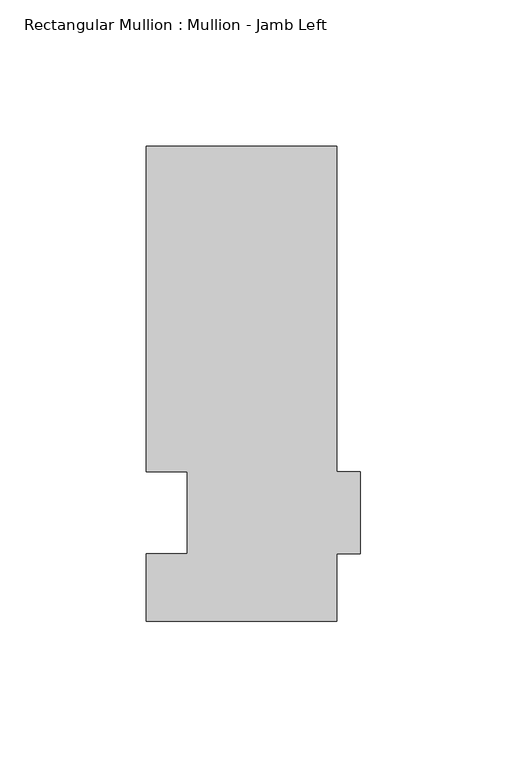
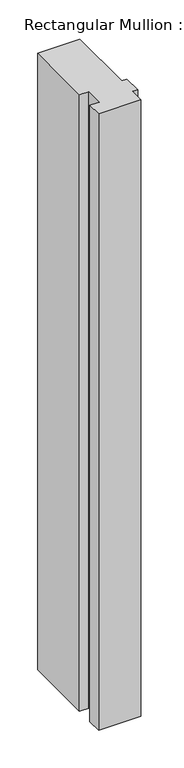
"""IFC4 building model written with IfcOpenShell, lengths in millimetres: member geometry, Rectangular Mullion : Mullion - Jamb Left."""

import ifcopenshell
import ifcopenshell.guid

model = None  # the IFC model being written
_history = None  # IfcOwnerHistory: only IFC2X3 demands one
_inside = {}  # id of a spatial element -> (the spatial element, [elements in it])
_under = {}  # id of a project, library or spatial element -> (it, [spatial elements below it])
_declared = {}  # id of a project -> (the project, [libraries it declares])
_typed = {}  # id of a type object -> (the type object, [elements of that type])
_made_of = {}  # id of a material, layer set ... -> (it, [elements and type objects made of it])


def new_model(schema):
    """Start an empty IFC model of exactly this schema.

    Asked for "IFC4X3", IfcOpenShell would pick the latest addendum, in which some entities
    have other attributes; the version numbers below select the first issue.
    IFC2X3 requires an IfcOwnerHistory on every rooted entity: one is made here for all.
    """
    global model, _history
    if schema == "IFC4X3":
        model = ifcopenshell.file(schema_version=(4, 3, 0, 0))
    else:
        model = ifcopenshell.file(schema=schema)
    _inside.clear()
    _under.clear()
    _declared.clear()
    _typed.clear()
    _made_of.clear()
    _history = None
    if model.schema == "IFC2X3":
        org = make("IfcOrganization", Name="unknown")
        user = make(
            "IfcPersonAndOrganization",
            ThePerson=make("IfcPerson", FamilyName="unknown"),
            TheOrganization=org,
        )
        app = make(
            "IfcApplication",
            ApplicationDeveloper=org,
            Version="unknown",
            ApplicationFullName="unknown",
            ApplicationIdentifier="unknown",
        )
        _history = make(
            "IfcOwnerHistory",
            OwningUser=user,
            OwningApplication=app,
            ChangeAction="ADDED",
            CreationDate=0,
        )
    return model


def make(cls, **values):
    """One entity of the class cls with the attributes given. An attribute that is None is left unset."""
    return model.create_entity(
        cls, **{name: value for name, value in values.items() if value is not None}
    )


def rooted(cls, **values):
    """An entity with a GlobalId (a new one), such as an element, a storey or a relation."""
    return make(cls, GlobalId=ifcopenshell.guid.new(), OwnerHistory=_history, **values)


def si_unit(unit_type, name, prefix=None):
    """IfcSIUnit, for example si_unit("LENGTHUNIT", "METRE", prefix="MILLI")."""
    return make("IfcSIUnit", UnitType=unit_type, Prefix=prefix, Name=name)


def assignment(units):
    """IfcUnitAssignment: the units of a project."""
    return None if units is None else make("IfcUnitAssignment", Units=units)


def point(xyz):
    """IfcCartesianPoint."""
    return None if xyz is None else make("IfcCartesianPoint", Coordinates=xyz)


def direction(xyz):
    """IfcDirection."""
    return None if xyz is None else make("IfcDirection", DirectionRatios=xyz)


def frame(location, z_axis=None, x_axis=None):
    """IfcAxis2Placement3D, a coordinate frame: its origin and axes. An axis left out is left unset."""
    return make(
        "IfcAxis2Placement3D",
        Location=point(location),
        Axis=direction(z_axis),
        RefDirection=direction(x_axis),
    )


def origin():
    """The frame at (0, 0, 0) with its axes left unset."""
    return frame((0.0, 0.0, 0.0))


def place(relative_to, where):
    """IfcLocalPlacement: puts the frame where relative to a parent placement (None: the world)."""
    return make(
        "IfcLocalPlacement", PlacementRelTo=relative_to, RelativePlacement=where
    )


def context(
    kind, dimensions, precision=None, world=None, true_north=None, identifier=None
):
    """IfcGeometricRepresentationContext, for example the 3D "Model" context."""
    return make(
        "IfcGeometricRepresentationContext",
        ContextIdentifier=identifier,
        ContextType=kind,
        CoordinateSpaceDimension=dimensions,
        Precision=precision,
        WorldCoordinateSystem=world,
        TrueNorth=true_north,
    )


def project(units=None, contexts=None):
    """IfcProject with its units and contexts."""
    return rooted(
        "IfcProject",
        Name="project",
        RepresentationContexts=contexts,
        UnitsInContext=assignment(units),
    )


def spatial(cls, under=None, at=None, **own):
    """A site, building, storey or space (cls), placed at a placement, below another one or the project."""
    s = rooted(cls, ObjectPlacement=at, **own)
    if under is not None:
        _under.setdefault(under.id(), (under, []))[1].append(s)
    return s


def polyline(points):
    """IfcPolyline through the points."""
    return make("IfcPolyline", Points=[point(p) for p in points])


def outline(outer, holes=None, kind="AREA"):
    """IfcArbitraryClosedProfileDef: a profile drawn as a closed curve; with holes, ...WithVoids."""
    if holes is None:
        return make("IfcArbitraryClosedProfileDef", ProfileType=kind, OuterCurve=outer)
    return make(
        "IfcArbitraryProfileDefWithVoids",
        ProfileType=kind,
        OuterCurve=outer,
        InnerCurves=holes,
    )


def extrude(swept, where, along, depth):
    """IfcExtrudedAreaSolid: the profile swept, set in the frame where, extruded along a direction by depth."""
    return make(
        "IfcExtrudedAreaSolid",
        SweptArea=swept,
        Position=where,
        ExtrudedDirection=direction(along),
        Depth=depth,
    )


def shape(context_of_items, identifier, shape_type, items):
    """IfcShapeRepresentation: the items that make up one representation, for example the "Body"."""
    return make(
        "IfcShapeRepresentation",
        ContextOfItems=context_of_items,
        RepresentationIdentifier=identifier,
        RepresentationType=shape_type,
        Items=items,
    )


def source(mapping_origin, context_of_items, identifier, shape_type, items):
    """IfcRepresentationMap: a shape defined once, which mapped items show again and again."""
    return make(
        "IfcRepresentationMap",
        MappingOrigin=mapping_origin,
        MappedRepresentation=shape(context_of_items, identifier, shape_type, items),
    )


def transform(
    local_origin,
    x_axis=None,
    y_axis=None,
    z_axis=None,
    scale=None,
    scale2=None,
    scale3=None,
    uniform=True,
):
    """IfcCartesianTransformationOperator3D, or its non-uniform kind. x_axis, y_axis, z_axis: its Axis1, 2, 3."""
    if uniform:
        return make(
            "IfcCartesianTransformationOperator3D",
            Axis1=direction(x_axis),
            Axis2=direction(y_axis),
            LocalOrigin=point(local_origin),
            Scale=scale,
            Axis3=direction(z_axis),
        )
    return make(
        "IfcCartesianTransformationOperator3DnonUniform",
        Axis1=direction(x_axis),
        Axis2=direction(y_axis),
        LocalOrigin=point(local_origin),
        Scale=scale,
        Axis3=direction(z_axis),
        Scale2=scale2,
        Scale3=scale3,
    )


def mapped(mapping_source, mapping_target):
    """IfcMappedItem: shows the shape of a source again, moved by a transform."""
    return make(
        "IfcMappedItem", MappingSource=mapping_source, MappingTarget=mapping_target
    )


def made_of(thing, what):
    """Note that an element or type object is made of a material, layer set ...; save() writes the relation."""
    if what is not None:
        _made_of.setdefault(what.id(), (what, []))[1].append(thing)
    return thing


def element(
    cls,
    number,
    at=None,
    inside=None,
    cuts=None,
    type_object=None,
    material=None,
    context=None,
    identifier="Body",
    shape_type=None,
    held_by="IfcProductDefinitionShape",
    body=None,
    shapes=None,
    **own,
):
    """One element of the class cls, such as IfcWall. Its Tag is "e" and its number.

    at: its placement. inside: the storey or other place that contains it. cuts: it is an
    opening in that element (IfcRelVoidsElement). A single representation is given by context,
    identifier, shape_type and body (its items); several are given by shapes. held_by: the class
    of the entity that holds the representations. save() writes the other relations.
    """
    e = rooted(cls, Tag="e%d" % number, ObjectPlacement=at, **own)
    if body is not None:
        shapes = [shape(context, identifier, shape_type, body)]
    if shapes is not None:
        e.Representation = make(held_by, Representations=shapes)
    if inside is not None:
        _inside.setdefault(inside.id(), (inside, []))[1].append(e)
    if cuts is not None:
        rooted(
            "IfcRelVoidsElement", RelatingBuildingElement=cuts, RelatedOpeningElement=e
        )
    if type_object is not None:
        _typed.setdefault(type_object.id(), (type_object, []))[1].append(e)
    return made_of(e, material)


def aggregate(whole, parts):
    """IfcRelAggregates: a whole, such as a stair, and the parts it consists of."""
    return rooted("IfcRelAggregates", RelatingObject=whole, RelatedObjects=parts)


def save(model, path):
    """Write the relations noted so far, then the file.

    IfcRelAggregates (storeys below a building ...), IfcRelContainedInSpatialStructure (elements
    in a storey), IfcRelDefinesByType, IfcRelAssociatesMaterial and IfcRelDeclares: one each for
    every whole, place, type object, material and project.
    """
    for whole, parts in _under.values():
        aggregate(whole, parts)
    for where, things in _inside.values():
        rooted(
            "IfcRelContainedInSpatialStructure",
            RelatedElements=things,
            RelatingStructure=where,
        )
    for kind, things in _typed.values():
        rooted("IfcRelDefinesByType", RelatedObjects=things, RelatingType=kind)
    for what, things in _made_of.values():
        rooted("IfcRelAssociatesMaterial", RelatedObjects=things, RelatingMaterial=what)
    for by, libraries in _declared.values():
        rooted("IfcRelDeclares", RelatingContext=by, RelatedDefinitions=libraries)
    model.write(path)


def rectangular_mullion_mullion_jamb_left_ab2141e3(model_context):
    return source(origin(), model_context, "Body", "SweptSolid", [
        extrude(outline(polyline([(-73.0, -14.0), (-59.0, -14.0), (-59.0, 14.0), (-73.0, 14.0), (-73.0, 125.0), (-8.0, 125.0), (-8.0, 14.0), (0.0, 14.0), (0.0, -14.0), (-8.0, -14.0), (-8.0, -37.0), (-73.0, -37.0), (-73.0, -14.0)])), frame((0.0, 0.0, -1000.0), z_axis=(0.0, 0.0, 1.0), x_axis=(1.0, 0.0, 0.0)), (0.0, 0.0, 1.0), 1000.0),
    ])


if __name__ == "__main__":
    model = new_model("IFC4")
    model_context = context("Model", 3, world=origin())
    ifc_project = project(units=[si_unit("LENGTHUNIT", "METRE", prefix="MILLI")], contexts=[model_context])
    site = spatial("IfcSite", under=ifc_project)
    building = spatial("IfcBuilding", under=site)
    placement = place(None, origin())
    rectangular_mullion_mullion_jamb_left_shape = rectangular_mullion_mullion_jamb_left_ab2141e3(model_context)
    element("IfcMember", 1, ObjectType="Rectangular Mullion : Mullion - Jamb Left", at=placement, inside=building, context=model_context, shape_type="MappedRepresentation", body=[
        mapped(rectangular_mullion_mullion_jamb_left_shape, transform((0.0, 0.0, 0.0), x_axis=(1.0, 0.0, 0.0), y_axis=(0.0, 1.0, 0.0), z_axis=(0.0, 0.0, 1.0))),
    ])
    save(model, "model.ifc")
